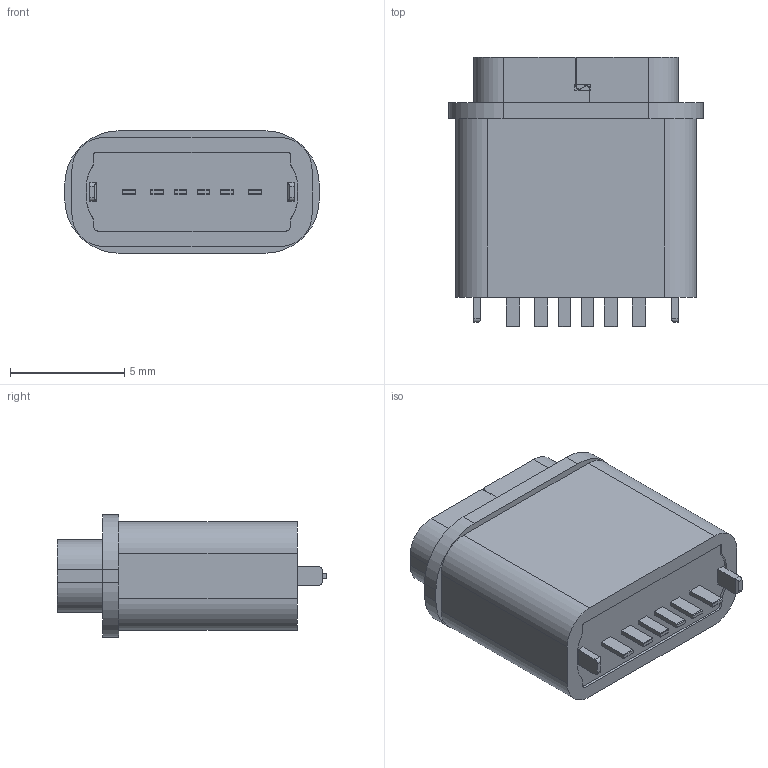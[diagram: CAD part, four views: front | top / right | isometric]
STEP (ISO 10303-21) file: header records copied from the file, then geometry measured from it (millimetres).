
FILE_DESCRIPTION((''),'2;1');
FILE_NAME('TYPE_C_6PH_10_50003','2023-11-13T17:15:16',('Administrator'),(''),'CREO PARAMETRIC BY PTC INC, 2019080','CREO PARAMETRIC BY PTC INC, 2019080','');
FILE_SCHEMA(('CONFIG_CONTROL_DESIGN'));
Length unit declared in the file: millimetre
Products named in the file (1): TYPE_C_6PH_10_50003
Bounding box: 11.14 x 11.8 x 5.36 mm (x, y, z)
Volume: 386.9 mm3; surface area: 609.4 mm2
Topology: 1 solids, 3 shells, 645 faces, 1731 edges, 1128 vertices
Faces by surface type: plane 503, cylinder 108, cone 22, torus 12
Entity records: 19961 total; most frequent: CARTESIAN_POINT 3572, ORIENTED_EDGE 3462, DIRECTION 3253, EDGE_CURVE 1731, VECTOR 1463, LINE 1463, VERTEX_POINT 1128, AXIS2_PLACEMENT_3D 895
